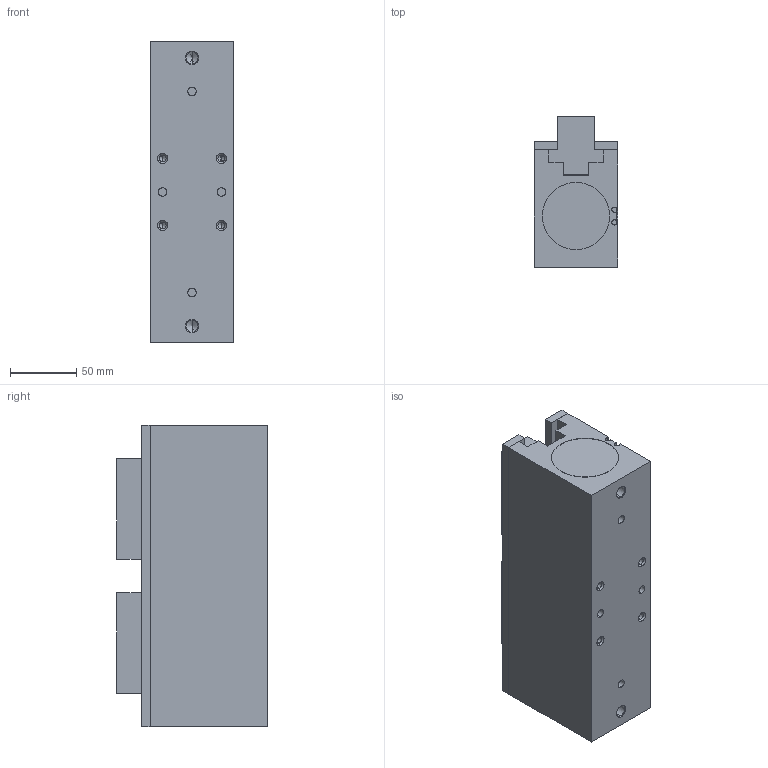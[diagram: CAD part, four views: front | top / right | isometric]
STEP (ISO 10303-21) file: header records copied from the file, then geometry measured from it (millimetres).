
FILE_DESCRIPTION (( 'STEP AP203' ), '1' );
FILE_NAME ('AGLP-16-1000_open.STEP', '2020-04-29T20:33:23', ( '' ), ( '' ), 'SwSTEP 2.0', 'SolidWorks 2016', '' );
FILE_SCHEMA (( 'CONFIG_CONTROL_DESIGN' ));
Length unit declared in the file: inch
Products named in the file (4): aglp16-1606; aglp16-1602A; AGLP-16-1000_open; aglp16-1601
Assembly tree (4 placements, depth 2):
  AGLP-16-1000_open
    aglp16-1601
    aglp16-1606
    aglp16-1602A  x2
Bounding box: 63.5 x 114.3 x 228.6 mm (x, y, z)
Volume: 1388234.8 mm3; surface area: 157389.7 mm2
Topology: 4 solids, 4 shells, 227 faces, 543 edges, 331 vertices
Faces by surface type: cylinder 90, plane 85, cone 52
Entity records: 5933 total; most frequent: DIRECTION 1025, CARTESIAN_POINT 920, ORIENTED_EDGE 878, EDGE_CURVE 439, AXIS2_PLACEMENT_3D 386, VERTEX_POINT 281, LINE 253, VECTOR 253
